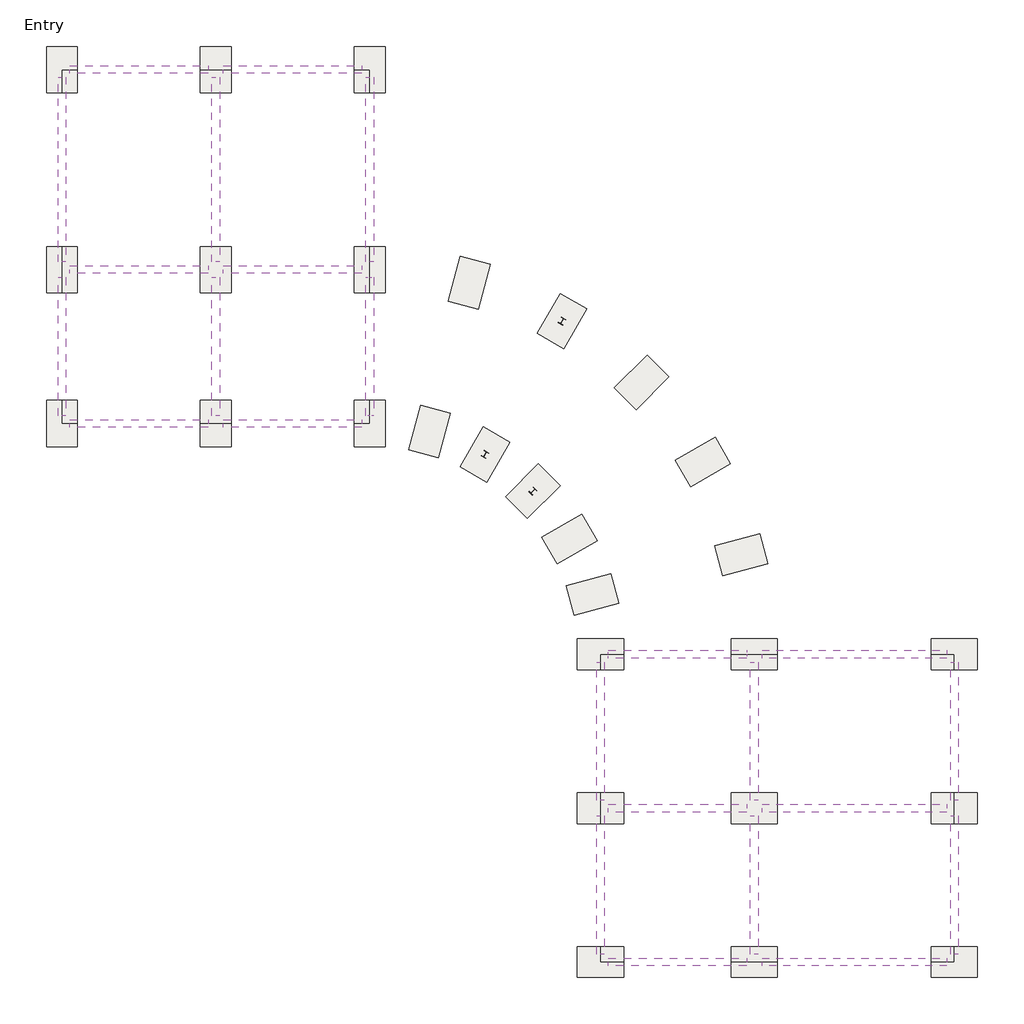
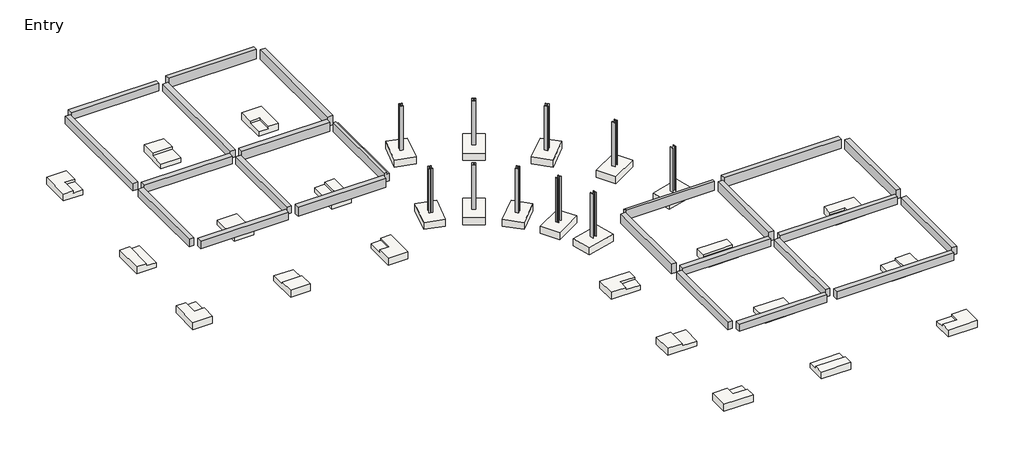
# One storey: 28 slabs, 24 beams, 10 columns.
"""IFC4 building model written with IfcOpenShell, lengths in millimetres."""

import ifcopenshell
import ifcopenshell.guid

model = None  # the IFC model being written
_history = None  # IfcOwnerHistory: only IFC2X3 demands one
_inside = {}  # id of a spatial element -> (the spatial element, [elements in it])
_under = {}  # id of a project, library or spatial element -> (it, [spatial elements below it])
_declared = {}  # id of a project -> (the project, [libraries it declares])
_typed = {}  # id of a type object -> (the type object, [elements of that type])
_made_of = {}  # id of a material, layer set ... -> (it, [elements and type objects made of it])


def new_model(schema):
    """Start an empty IFC model of exactly this schema.

    Asked for "IFC4X3", IfcOpenShell would pick the latest addendum, in which some entities
    have other attributes; the version numbers below select the first issue.
    IFC2X3 requires an IfcOwnerHistory on every rooted entity: one is made here for all.
    """
    global model, _history
    if schema == "IFC4X3":
        model = ifcopenshell.file(schema_version=(4, 3, 0, 0))
    else:
        model = ifcopenshell.file(schema=schema)
    _inside.clear()
    _under.clear()
    _declared.clear()
    _typed.clear()
    _made_of.clear()
    _history = None
    if model.schema == "IFC2X3":
        org = make("IfcOrganization", Name="unknown")
        user = make(
            "IfcPersonAndOrganization",
            ThePerson=make("IfcPerson", FamilyName="unknown"),
            TheOrganization=org,
        )
        app = make(
            "IfcApplication",
            ApplicationDeveloper=org,
            Version="unknown",
            ApplicationFullName="unknown",
            ApplicationIdentifier="unknown",
        )
        _history = make(
            "IfcOwnerHistory",
            OwningUser=user,
            OwningApplication=app,
            ChangeAction="ADDED",
            CreationDate=0,
        )
    return model


def make(cls, **values):
    """One entity of the class cls with the attributes given. An attribute that is None is left unset."""
    return model.create_entity(
        cls, **{name: value for name, value in values.items() if value is not None}
    )


def rooted(cls, **values):
    """An entity with a GlobalId (a new one), such as an element, a storey or a relation."""
    return make(cls, GlobalId=ifcopenshell.guid.new(), OwnerHistory=_history, **values)


def si_unit(unit_type, name, prefix=None):
    """IfcSIUnit, for example si_unit("LENGTHUNIT", "METRE", prefix="MILLI")."""
    return make("IfcSIUnit", UnitType=unit_type, Prefix=prefix, Name=name)


def assignment(units):
    """IfcUnitAssignment: the units of a project."""
    return None if units is None else make("IfcUnitAssignment", Units=units)


def point(xyz):
    """IfcCartesianPoint."""
    return None if xyz is None else make("IfcCartesianPoint", Coordinates=xyz)


def direction(xyz):
    """IfcDirection."""
    return None if xyz is None else make("IfcDirection", DirectionRatios=xyz)


def frame(location, z_axis=None, x_axis=None):
    """IfcAxis2Placement3D, a coordinate frame: its origin and axes. An axis left out is left unset."""
    return make(
        "IfcAxis2Placement3D",
        Location=point(location),
        Axis=direction(z_axis),
        RefDirection=direction(x_axis),
    )


def frame_2d(location, x_axis=None):
    """IfcAxis2Placement2D, a coordinate frame in the plane: its origin and x axis."""
    return make(
        "IfcAxis2Placement2D", Location=point(location), RefDirection=direction(x_axis)
    )


def origin():
    """The frame at (0, 0, 0) with its axes left unset."""
    return frame((0.0, 0.0, 0.0))


def origin_with_axes():
    """The frame at (0, 0, 0) with the z axis (0, 0, 1) and the x axis (1, 0, 0) written out."""
    return frame((0.0, 0.0, 0.0), z_axis=(0.0, 0.0, 1.0), x_axis=(1.0, 0.0, 0.0))


def place(relative_to, where):
    """IfcLocalPlacement: puts the frame where relative to a parent placement (None: the world)."""
    return make(
        "IfcLocalPlacement", PlacementRelTo=relative_to, RelativePlacement=where
    )


def context(
    kind, dimensions, precision=None, world=None, true_north=None, identifier=None
):
    """IfcGeometricRepresentationContext, for example the 3D "Model" context."""
    return make(
        "IfcGeometricRepresentationContext",
        ContextIdentifier=identifier,
        ContextType=kind,
        CoordinateSpaceDimension=dimensions,
        Precision=precision,
        WorldCoordinateSystem=world,
        TrueNorth=true_north,
    )


def project(units=None, contexts=None):
    """IfcProject with its units and contexts."""
    return rooted(
        "IfcProject",
        Name="project",
        RepresentationContexts=contexts,
        UnitsInContext=assignment(units),
    )


def spatial(cls, under=None, at=None, **own):
    """A site, building, storey or space (cls), placed at a placement, below another one or the project."""
    s = rooted(cls, ObjectPlacement=at, **own)
    if under is not None:
        _under.setdefault(under.id(), (under, []))[1].append(s)
    return s


def polyline(points):
    """IfcPolyline through the points."""
    return make("IfcPolyline", Points=[point(p) for p in points])


def circle_curve(where, radius):
    """IfcCircle in the frame where."""
    return make("IfcCircle", Position=where, Radius=radius)


def trimmed(basis, trim1, trim2, sense, master):
    """IfcTrimmedCurve: the piece of a basis curve between two trims."""
    return make(
        "IfcTrimmedCurve",
        BasisCurve=basis,
        Trim1=trim1,
        Trim2=trim2,
        SenseAgreement=sense,
        MasterRepresentation=master,
    )


def segment(curve, same_sense, transition):
    """IfcCompositeCurveSegment."""
    return make(
        "IfcCompositeCurveSegment",
        Transition=transition,
        SameSense=same_sense,
        ParentCurve=curve,
    )


def composite_curve(segments, self_intersect=None):
    """IfcCompositeCurve: segments joined end to end."""
    return make("IfcCompositeCurve", Segments=segments, SelfIntersect=self_intersect)


def outline(outer, holes=None, kind="AREA"):
    """IfcArbitraryClosedProfileDef: a profile drawn as a closed curve; with holes, ...WithVoids."""
    if holes is None:
        return make("IfcArbitraryClosedProfileDef", ProfileType=kind, OuterCurve=outer)
    return make(
        "IfcArbitraryProfileDefWithVoids",
        ProfileType=kind,
        OuterCurve=outer,
        InnerCurves=holes,
    )


def extrude(swept, where, along, depth):
    """IfcExtrudedAreaSolid: the profile swept, set in the frame where, extruded along a direction by depth."""
    return make(
        "IfcExtrudedAreaSolid",
        SweptArea=swept,
        Position=where,
        ExtrudedDirection=direction(along),
        Depth=depth,
    )


def faces_of(points, faces, orient=None, outer=None):
    """IfcFace entities. A face is a list of loops; a loop is a list of indices into points, from 0.

    orient and outer hold one flag for each loop. By default every Orientation is true, the
    first loop of a face is its IfcFaceOuterBound and the others are IfcFaceBound.
    """
    made = []
    for i, loops in enumerate(faces):
        bounds = []
        for j, loop in enumerate(loops):
            is_outer = j == 0 if outer is None else outer[i][j]
            bounds.append(
                make(
                    "IfcFaceOuterBound" if is_outer else "IfcFaceBound",
                    Bound=make("IfcPolyLoop", Polygon=[points[k] for k in loop]),
                    Orientation=True if orient is None else orient[i][j],
                )
            )
        made.append(make("IfcFace", Bounds=bounds))
    return made


def faceted_brep(points, faces, orient=None, outer=None, voids=None):
    """IfcFacetedBrep: a solid bounded by flat faces; with voids (closed shells), ...WithVoids."""
    shared = [point(p) for p in points]
    hull = make("IfcClosedShell", CfsFaces=faces_of(shared, faces, orient, outer))
    if voids is None:
        return make("IfcFacetedBrep", Outer=hull)
    return make(
        "IfcFacetedBrepWithVoids",
        Outer=hull,
        Voids=[
            make(cls, CfsFaces=faces_of(shared, fs, o, b)) for cls, fs, o, b in voids
        ],
    )


def shape(context_of_items, identifier, shape_type, items):
    """IfcShapeRepresentation: the items that make up one representation, for example the "Body"."""
    return make(
        "IfcShapeRepresentation",
        ContextOfItems=context_of_items,
        RepresentationIdentifier=identifier,
        RepresentationType=shape_type,
        Items=items,
    )


def source(mapping_origin, context_of_items, identifier, shape_type, items):
    """IfcRepresentationMap: a shape defined once, which mapped items show again and again."""
    return make(
        "IfcRepresentationMap",
        MappingOrigin=mapping_origin,
        MappedRepresentation=shape(context_of_items, identifier, shape_type, items),
    )


def transform(
    local_origin,
    x_axis=None,
    y_axis=None,
    z_axis=None,
    scale=None,
    scale2=None,
    scale3=None,
    uniform=True,
):
    """IfcCartesianTransformationOperator3D, or its non-uniform kind. x_axis, y_axis, z_axis: its Axis1, 2, 3."""
    if uniform:
        return make(
            "IfcCartesianTransformationOperator3D",
            Axis1=direction(x_axis),
            Axis2=direction(y_axis),
            LocalOrigin=point(local_origin),
            Scale=scale,
            Axis3=direction(z_axis),
        )
    return make(
        "IfcCartesianTransformationOperator3DnonUniform",
        Axis1=direction(x_axis),
        Axis2=direction(y_axis),
        LocalOrigin=point(local_origin),
        Scale=scale,
        Axis3=direction(z_axis),
        Scale2=scale2,
        Scale3=scale3,
    )


def mapped(mapping_source, mapping_target):
    """IfcMappedItem: shows the shape of a source again, moved by a transform."""
    return make(
        "IfcMappedItem", MappingSource=mapping_source, MappingTarget=mapping_target
    )


def made_of(thing, what):
    """Note that an element or type object is made of a material, layer set ...; save() writes the relation."""
    if what is not None:
        _made_of.setdefault(what.id(), (what, []))[1].append(thing)
    return thing


def element(
    cls,
    number,
    at=None,
    inside=None,
    cuts=None,
    type_object=None,
    material=None,
    context=None,
    identifier="Body",
    shape_type=None,
    held_by="IfcProductDefinitionShape",
    body=None,
    shapes=None,
    **own,
):
    """One element of the class cls, such as IfcWall. Its Tag is "e" and its number.

    at: its placement. inside: the storey or other place that contains it. cuts: it is an
    opening in that element (IfcRelVoidsElement). A single representation is given by context,
    identifier, shape_type and body (its items); several are given by shapes. held_by: the class
    of the entity that holds the representations. save() writes the other relations.
    """
    e = rooted(cls, Tag="e%d" % number, ObjectPlacement=at, **own)
    if body is not None:
        shapes = [shape(context, identifier, shape_type, body)]
    if shapes is not None:
        e.Representation = make(held_by, Representations=shapes)
    if inside is not None:
        _inside.setdefault(inside.id(), (inside, []))[1].append(e)
    if cuts is not None:
        rooted(
            "IfcRelVoidsElement", RelatingBuildingElement=cuts, RelatedOpeningElement=e
        )
    if type_object is not None:
        _typed.setdefault(type_object.id(), (type_object, []))[1].append(e)
    return made_of(e, material)


def aggregate(whole, parts):
    """IfcRelAggregates: a whole, such as a stair, and the parts it consists of."""
    return rooted("IfcRelAggregates", RelatingObject=whole, RelatedObjects=parts)


def save(model, path):
    """Write the relations noted so far, then the file.

    IfcRelAggregates (storeys below a building ...), IfcRelContainedInSpatialStructure (elements
    in a storey), IfcRelDefinesByType, IfcRelAssociatesMaterial and IfcRelDeclares: one each for
    every whole, place, type object, material and project.
    """
    for whole, parts in _under.values():
        aggregate(whole, parts)
    for where, things in _inside.values():
        rooted(
            "IfcRelContainedInSpatialStructure",
            RelatedElements=things,
            RelatingStructure=where,
        )
    for kind, things in _typed.values():
        rooted("IfcRelDefinesByType", RelatedObjects=things, RelatingType=kind)
    for what, things in _made_of.values():
        rooted("IfcRelAssociatesMaterial", RelatedObjects=things, RelatingMaterial=what)
    for by, libraries in _declared.values():
        rooted("IfcRelDeclares", RelatingContext=by, RelatedDefinitions=libraries)
    model.write(path)


def w_wide_flange_column_w10x33_dc02cfa5(model_context):
    return source(origin(), model_context, "Body", "SweptSolid", [
        extrude(outline(composite_curve([segment(polyline([(101.1039062, 123.5769531), (101.1039062, 112.5636719), (21.2328125, 112.5636719)]), True, "CONTINUOUS"), segment(trimmed(circle_curve(frame_2d((21.2328125, 95.0019531)), 17.5617188), [point((21.2328125, 112.5636719))], [point((3.6710937, 95.0019531))], True, "CARTESIAN"), True, "CONTINUOUS"), segment(polyline([(3.6710937, 95.0019531), (3.6710937, -95.0019531)]), True, "CONTINUOUS"), segment(trimmed(circle_curve(frame_2d((21.2328125, -95.0019531)), 17.5617188), [point((3.6710937, -95.0019531))], [point((21.2328125, -112.5636719))], True, "CARTESIAN"), True, "CONTINUOUS"), segment(polyline([(21.2328125, -112.5636719), (101.1039062, -112.5636719), (101.1039062, -123.5769531), (-101.1039063, -123.5769531), (-101.1039063, -112.5636719), (-21.2328125, -112.5636719)]), True, "CONTINUOUS"), segment(trimmed(circle_curve(frame_2d((-21.2328125, -95.0019531)), 17.5617188), [point((-21.2328125, -112.5636719))], [point((-3.6710938, -95.0019531))], True, "CARTESIAN"), True, "CONTINUOUS"), segment(polyline([(-3.6710938, -95.0019531), (-3.6710938, 95.0019531)]), True, "CONTINUOUS"), segment(trimmed(circle_curve(frame_2d((-21.2328125, 95.0019531)), 17.5617188), [point((-3.6710938, 95.0019531))], [point((-21.2328125, 112.5636719))], True, "CARTESIAN"), True, "CONTINUOUS"), segment(polyline([(-21.2328125, 112.5636719), (-101.1039063, 112.5636719), (-101.1039063, 123.5769531), (101.1039062, 123.5769531)]), True, "CONTINUOUS")], self_intersect=False)), origin_with_axes(), (0.0, 0.0, 1.0), 2921.0),
    ])


def slab_5ba74754(model_context):
    return source(origin(), model_context, "Body", "SweptSolid", [
        extrude(outline(polyline([(609.6, 914.4), (609.6, -914.4), (-609.6, -914.4), (-609.6, 914.4), (609.6, 914.4)])), frame((0.0, 0.0, -457.2), z_axis=(0.0, 0.0, 1.0), x_axis=(1.0, 0.0, 0.0)), (0.0, 0.0, 1.0), 457.2),
    ])


model = new_model("IFC4")

# Units and contexts
model_context = context("Model", 3, world=origin())
ifc_project = project(units=[si_unit("LENGTHUNIT", "METRE", prefix="MILLI")], contexts=[model_context])

# Site, building, storey
site = spatial("IfcSite", under=ifc_project)
building = spatial("IfcBuilding", under=site)
storey = spatial("IfcBuildingStorey", under=building, Name="Entry", Elevation=0.0)

# Beams
placement = place(None, origin())
element("IfcBeam", 1, ObjectType="Concrete-Rectangular Beam : 12 x 24", at=placement, inside=storey, context=model_context, shape_type="SweptSolid", body=[
    extrude(outline(polyline([(-35055.8783408, 12274.6963551), (-40542.2783408, 12274.6963551), (-40542.2783408, 12579.4963551), (-35055.8783408, 12579.4963551), (-35055.8783408, 12274.6963551)])), frame((0.0, 0.0, 2438.4), z_axis=(0.0, 0.0, 1.0), x_axis=(1.0, 0.0, 0.0)), (0.0, 0.0, 1.0), 488.95),
])
element("IfcBeam", 2, ObjectType="Concrete-Rectangular Beam : 12 x 24", at=placement, inside=storey, context=model_context, shape_type="SweptSolid", body=[
    extrude(outline(polyline([(-34446.2783408, 12274.6963551), (-34446.2783408, 12579.4963551), (-28959.8783408, 12579.4963551), (-28959.8783408, 12274.6963551), (-34446.2783408, 12274.6963551)])), frame((0.0, 0.0, 2438.4), z_axis=(0.0, 0.0, 1.0), x_axis=(1.0, 0.0, 0.0)), (0.0, 0.0, 1.0), 609.6),
])
element("IfcBeam", 3, ObjectType="Concrete-Rectangular Beam : 12 x 24", at=placement, inside=storey, context=model_context, shape_type="SweptSolid", body=[
    extrude(outline(polyline([(-28502.6783408, 4807.0963551), (-28807.4783408, 4807.0963551), (-28807.4783408, 12122.2963551), (-28502.6783408, 12122.2963551), (-28502.6783408, 4807.0963551)])), frame((0.0, 0.0, 2438.4), z_axis=(0.0, 0.0, 1.0), x_axis=(1.0, 0.0, 0.0)), (0.0, 0.0, 1.0), 609.6),
])
element("IfcBeam", 4, ObjectType="Concrete-Rectangular Beam : 12 x 24", at=placement, inside=storey, context=model_context, shape_type="SweptSolid", body=[
    extrude(outline(polyline([(3048.0, -28807.4783408), (2438.4, -28807.4783408), (2438.4, -28502.6783408), (2921.0, -28502.6783408), (2921.0, -28655.0783408), (3048.0, -28655.0783408), (3048.0, -28807.4783408)])), frame((0.0, -1288.9036449, 0.0), z_axis=(0.0, 1.0, 0.0), x_axis=(0.0, 0.0, 1.0)), (0.0, 0.0, 1.0), 5486.4),
])
element("IfcBeam", 5, ObjectType="Concrete-Rectangular Beam : 12 x 24", at=placement, inside=storey, context=model_context, shape_type="SweptSolid", body=[
    extrude(outline(polyline([(-34446.2783408, -1746.1036449), (-34446.2783408, -1441.3036449), (-28959.8783408, -1441.3036449), (-28959.8783408, -1746.1036449), (-34446.2783408, -1746.1036449)])), frame((0.0, 0.0, 2438.4), z_axis=(0.0, 0.0, 1.0), x_axis=(1.0, 0.0, 0.0)), (0.0, 0.0, 1.0), 609.6),
])
element("IfcBeam", 6, ObjectType="Concrete-Rectangular Beam : 12 x 24", at=placement, inside=storey, context=model_context, shape_type="SweptSolid", body=[
    extrude(outline(polyline([(-40542.2783408, -1441.3036449), (-35055.8783408, -1441.3036449), (-35055.8783408, -1746.1036449), (-40542.2783408, -1746.1036449), (-40542.2783408, -1441.3036449)])), frame((0.0, 0.0, 2438.4), z_axis=(0.0, 0.0, 1.0), x_axis=(1.0, 0.0, 0.0)), (0.0, 0.0, 1.0), 488.95),
])
element("IfcBeam", 7, ObjectType="Concrete-Rectangular Beam : 12 x 24", at=placement, inside=storey, context=model_context, shape_type="SweptSolid", body=[
    extrude(outline(polyline([(-40694.6783408, 4197.4963551), (-40694.6783408, -1288.9036449), (-40999.4783408, -1288.9036449), (-40999.4783408, 4197.4963551), (-40694.6783408, 4197.4963551)])), frame((0.0, 0.0, 2438.4), z_axis=(0.0, 0.0, 1.0), x_axis=(1.0, 0.0, 0.0)), (0.0, 0.0, 1.0), 488.95),
])
element("IfcBeam", 8, ObjectType="Concrete-Rectangular Beam : 12 x 24", at=placement, inside=storey, context=model_context, shape_type="SweptSolid", body=[
    extrude(outline(polyline([(-40694.6783408, 12122.2963551), (-40694.6783408, 4807.0963551), (-40999.4783408, 4807.0963551), (-40999.4783408, 12122.2963551), (-40694.6783408, 12122.2963551)])), frame((0.0, 0.0, 2438.4), z_axis=(0.0, 0.0, 1.0), x_axis=(1.0, 0.0, 0.0)), (0.0, 0.0, 1.0), 488.95),
])
element("IfcBeam", 9, ObjectType="Concrete-Rectangular Beam : 12 x 24", at=placement, inside=storey, context=model_context, shape_type="SweptSolid", body=[
    extrude(outline(polyline([(-34903.4783408, 12122.2963551), (-34598.6783408, 12122.2963551), (-34598.6783408, 4807.0963551), (-34903.4783408, 4807.0963551), (-34903.4783408, 12122.2963551)])), frame((0.0, 0.0, 2438.4), z_axis=(0.0, 0.0, 1.0), x_axis=(1.0, 0.0, 0.0)), (0.0, 0.0, 1.0), 488.95),
])
element("IfcBeam", 10, ObjectType="Concrete-Rectangular Beam : 12 x 24", at=placement, inside=storey, context=model_context, shape_type="SweptSolid", body=[
    extrude(outline(polyline([(-34903.4783408, -1288.9036449), (-34903.4783408, 4197.4963551), (-34598.6783408, 4197.4963551), (-34598.6783408, -1288.9036449), (-34903.4783408, -1288.9036449)])), frame((0.0, 0.0, 2438.4), z_axis=(0.0, 0.0, 1.0), x_axis=(1.0, 0.0, 0.0)), (0.0, 0.0, 1.0), 488.95),
])
element("IfcBeam", 11, ObjectType="Concrete-Rectangular Beam : 12 x 24", at=placement, inside=storey, context=model_context, shape_type="SweptSolid", body=[
    extrude(outline(polyline([(-35055.8783408, 4349.8963551), (-40542.2783408, 4349.8963551), (-40542.2783408, 4654.6963551), (-35055.8783408, 4654.6963551), (-35055.8783408, 4349.8963551)])), frame((0.0, 0.0, 2438.4), z_axis=(0.0, 0.0, 1.0), x_axis=(1.0, 0.0, 0.0)), (0.0, 0.0, 1.0), 488.95),
])
element("IfcBeam", 12, ObjectType="Concrete-Rectangular Beam : 12 x 24", at=placement, inside=storey, context=model_context, shape_type="SweptSolid", body=[
    extrude(outline(polyline([(-34446.2783408, 4349.8963551), (-34446.2783408, 4654.6963551), (-28959.8783408, 4654.6963551), (-28959.8783408, 4349.8963551), (-34446.2783408, 4349.8963551)])), frame((0.0, 0.0, 2438.4), z_axis=(0.0, 0.0, 1.0), x_axis=(1.0, 0.0, 0.0)), (0.0, 0.0, 1.0), 609.6),
])
element("IfcBeam", 13, ObjectType="Concrete-Rectangular Beam : 12 x 24", at=placement, inside=storey, context=model_context, shape_type="SweptSolid", body=[
    extrude(outline(polyline([(-5642.6783408, -17138.5036449), (-5337.8783408, -17138.5036449), (-5337.8783408, -22624.9036449), (-5642.6783408, -22624.9036449), (-5642.6783408, -17138.5036449)])), frame((0.0, 0.0, 2438.4), z_axis=(0.0, 0.0, 1.0), x_axis=(1.0, 0.0, 0.0)), (0.0, 0.0, 1.0), 488.95),
])
element("IfcBeam", 14, ObjectType="Concrete-Rectangular Beam : 12 x 24", at=placement, inside=storey, context=model_context, shape_type="SweptSolid", body=[
    extrude(outline(polyline([(-5337.8783408, -16528.9036449), (-5642.6783408, -16528.9036449), (-5642.6783408, -11042.5036449), (-5337.8783408, -11042.5036449), (-5337.8783408, -16528.9036449)])), frame((0.0, 0.0, 2438.4), z_axis=(0.0, 0.0, 1.0), x_axis=(1.0, 0.0, 0.0)), (0.0, 0.0, 1.0), 609.6),
])
element("IfcBeam", 15, ObjectType="Concrete-Rectangular Beam : 12 x 24", at=placement, inside=storey, context=model_context, shape_type="SweptSolid", body=[
    extrude(outline(polyline([(-13110.2783408, -10890.1036449), (-13110.2783408, -10585.3036449), (-5795.0783408, -10585.3036449), (-5795.0783408, -10890.1036449), (-13110.2783408, -10890.1036449)])), frame((0.0, 0.0, 2438.4), z_axis=(0.0, 0.0, 1.0), x_axis=(1.0, 0.0, 0.0)), (0.0, 0.0, 1.0), 609.6),
])
element("IfcBeam", 16, ObjectType="Concrete-Rectangular Beam : 12 x 24", at=placement, inside=storey, context=model_context, shape_type="SweptSolid", body=[
    extrude(outline(polyline([(-10890.1036449, 3048.0), (-10737.7036449, 3048.0), (-10737.7036449, 2921.0), (-10585.3036449, 2921.0), (-10585.3036449, 2438.4), (-10890.1036449, 2438.4), (-10890.1036449, 3048.0)])), frame((-19206.2783408, 0.0, 0.0), z_axis=(1.0, 0.0, 0.0), x_axis=(0.0, 1.0, 0.0)), (0.0, 0.0, 1.0), 5486.4),
])
element("IfcBeam", 17, ObjectType="Concrete-Rectangular Beam : 12 x 24", at=placement, inside=storey, context=model_context, shape_type="SweptSolid", body=[
    extrude(outline(polyline([(-19358.6783408, -16528.9036449), (-19663.4783408, -16528.9036449), (-19663.4783408, -11042.5036449), (-19358.6783408, -11042.5036449), (-19358.6783408, -16528.9036449)])), frame((0.0, 0.0, 2438.4), z_axis=(0.0, 0.0, 1.0), x_axis=(1.0, 0.0, 0.0)), (0.0, 0.0, 1.0), 609.6),
])
element("IfcBeam", 18, ObjectType="Concrete-Rectangular Beam : 12 x 24", at=placement, inside=storey, context=model_context, shape_type="SweptSolid", body=[
    extrude(outline(polyline([(-19663.4783408, -17138.5036449), (-19358.6783408, -17138.5036449), (-19358.6783408, -22624.9036449), (-19663.4783408, -22624.9036449), (-19663.4783408, -17138.5036449)])), frame((0.0, 0.0, 2438.4), z_axis=(0.0, 0.0, 1.0), x_axis=(1.0, 0.0, 0.0)), (0.0, 0.0, 1.0), 488.95),
])
element("IfcBeam", 19, ObjectType="Concrete-Rectangular Beam : 12 x 24", at=placement, inside=storey, context=model_context, shape_type="SweptSolid", body=[
    extrude(outline(polyline([(-19206.2783408, -23082.1036449), (-19206.2783408, -22777.3036449), (-13719.8783408, -22777.3036449), (-13719.8783408, -23082.1036449), (-19206.2783408, -23082.1036449)])), frame((0.0, 0.0, 2438.4), z_axis=(0.0, 0.0, 1.0), x_axis=(1.0, 0.0, 0.0)), (0.0, 0.0, 1.0), 488.95),
])
element("IfcBeam", 20, ObjectType="Concrete-Rectangular Beam : 12 x 24", at=placement, inside=storey, context=model_context, shape_type="SweptSolid", body=[
    extrude(outline(polyline([(-13110.2783408, -23082.1036449), (-13110.2783408, -22777.3036449), (-5795.0783408, -22777.3036449), (-5795.0783408, -23082.1036449), (-13110.2783408, -23082.1036449)])), frame((0.0, 0.0, 2438.4), z_axis=(0.0, 0.0, 1.0), x_axis=(1.0, 0.0, 0.0)), (0.0, 0.0, 1.0), 488.95),
])
element("IfcBeam", 21, ObjectType="Concrete-Rectangular Beam : 12 x 24", at=placement, inside=storey, context=model_context, shape_type="SweptSolid", body=[
    extrude(outline(polyline([(-13110.2783408, -16986.1036449), (-13110.2783408, -16681.3036449), (-5795.0783408, -16681.3036449), (-5795.0783408, -16986.1036449), (-13110.2783408, -16986.1036449)])), frame((0.0, 0.0, 2438.4), z_axis=(0.0, 0.0, 1.0), x_axis=(1.0, 0.0, 0.0)), (0.0, 0.0, 1.0), 488.95),
])
element("IfcBeam", 22, ObjectType="Concrete-Rectangular Beam : 12 x 24", at=placement, inside=storey, context=model_context, shape_type="SweptSolid", body=[
    extrude(outline(polyline([(-19206.2783408, -16986.1036449), (-19206.2783408, -16681.3036449), (-13719.8783408, -16681.3036449), (-13719.8783408, -16986.1036449), (-19206.2783408, -16986.1036449)])), frame((0.0, 0.0, 2438.4), z_axis=(0.0, 0.0, 1.0), x_axis=(1.0, 0.0, 0.0)), (0.0, 0.0, 1.0), 488.95),
])
element("IfcBeam", 23, ObjectType="Concrete-Rectangular Beam : 12 x 24", at=placement, inside=storey, context=model_context, shape_type="SweptSolid", body=[
    extrude(outline(polyline([(-13567.4783408, -17138.5036449), (-13262.6783408, -17138.5036449), (-13262.6783408, -22624.9036449), (-13567.4783408, -22624.9036449), (-13567.4783408, -17138.5036449)])), frame((0.0, 0.0, 2438.4), z_axis=(0.0, 0.0, 1.0), x_axis=(1.0, 0.0, 0.0)), (0.0, 0.0, 1.0), 488.95),
])
element("IfcBeam", 24, ObjectType="Concrete-Rectangular Beam : 12 x 24", at=placement, inside=storey, context=model_context, shape_type="SweptSolid", body=[
    extrude(outline(polyline([(-13262.6783408, -16528.9036449), (-13567.4783408, -16528.9036449), (-13567.4783408, -11042.5036449), (-13262.6783408, -11042.5036449), (-13262.6783408, -16528.9036449)])), frame((0.0, 0.0, 2438.4), z_axis=(0.0, 0.0, 1.0), x_axis=(1.0, 0.0, 0.0)), (0.0, 0.0, 1.0), 609.6),
])

# Columns
w_wide_flange_column_w10x33_shape = w_wide_flange_column_w10x33_dc02cfa5(model_context)
element("IfcColumn", 25, ObjectType="W-Wide Flange-Column : W10X33", at=placement, inside=storey, context=model_context, shape_type="MappedRepresentation", body=[
    mapped(w_wide_flange_column_w10x33_shape, transform((-20736.1420486, -6165.7036449, 0.0), x_axis=(-0.4999999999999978, 0.8660254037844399, 0.0), y_axis=(-0.8660254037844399, -0.4999999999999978, 0.0), z_axis=(0.0, 0.0, 1.0))),
])
element("IfcColumn", 26, ObjectType="W-Wide Flange-Column : W10X33", at=placement, inside=storey, context=model_context, shape_type="MappedRepresentation", body=[
    mapped(w_wide_flange_column_w10x33_shape, transform((-24083.0783408, -2818.7673527, 0.0), x_axis=(0.8660254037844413, -0.49999999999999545, 0.0), y_axis=(0.49999999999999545, 0.8660254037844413, 0.0), z_axis=(0.0, 0.0, 1.0))),
])
element("IfcColumn", 27, ObjectType="W-Wide Flange-Column : W10X33", at=placement, inside=storey, context=model_context, shape_type="MappedRepresentation", body=[
    mapped(w_wide_flange_column_w10x33_shape, transform((-26288.4369924, -1905.2778893, 0.0), x_axis=(0.9659258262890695, -0.258819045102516, 0.0), y_axis=(0.258819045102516, 0.9659258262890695, 0.0), z_axis=(0.0, 0.0, 1.0))),
])
element("IfcColumn", 28, ObjectType="W-Wide Flange-Column : W10X33", at=placement, inside=storey, context=model_context, shape_type="MappedRepresentation", body=[
    mapped(w_wide_flange_column_w10x33_shape, transform((-15456.8511871, -3117.7036449, 0.0), x_axis=(-0.4999999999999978, 0.8660254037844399, 0.0), y_axis=(-0.8660254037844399, -0.4999999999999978, 0.0), z_axis=(0.0, 0.0, 1.0))),
])
element("IfcColumn", 29, ObjectType="W-Wide Flange-Column : W10X33", at=placement, inside=storey, context=model_context, shape_type="MappedRepresentation", body=[
    mapped(w_wide_flange_column_w10x33_shape, transform((-21035.0783408, 2460.5235088, 0.0), x_axis=(0.8660254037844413, -0.49999999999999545, 0.0), y_axis=(0.49999999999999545, 0.8660254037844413, 0.0), z_axis=(0.0, 0.0, 1.0))),
])
element("IfcColumn", 30, ObjectType="W-Wide Flange-Column : W10X33", at=placement, inside=storey, context=model_context, shape_type="MappedRepresentation", body=[
    mapped(w_wide_flange_column_w10x33_shape, transform((-24710.6760935, 3983.0059477, 0.0), x_axis=(0.9659258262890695, -0.258819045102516, 0.0), y_axis=(0.258819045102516, 0.9659258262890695, 0.0), z_axis=(0.0, 0.0, 1.0))),
])
element("IfcColumn", 31, ObjectType="W-Wide Flange-Column : W10X33", at=placement, inside=storey, context=model_context, shape_type="MappedRepresentation", body=[
    mapped(w_wide_flange_column_w10x33_shape, transform((-22189.2939336, -4271.9192377, 0.0), x_axis=(0.7071067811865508, -0.7071067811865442, 0.0), y_axis=(0.7071067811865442, 0.7071067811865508, 0.0), z_axis=(0.0, 0.0, 1.0))),
])
element("IfcColumn", 32, ObjectType="W-Wide Flange-Column : W10X33", at=placement, inside=storey, context=model_context, shape_type="MappedRepresentation", body=[
    mapped(w_wide_flange_column_w10x33_shape, transform((-17878.7709955, 38.6037004, 0.0), x_axis=(0.7071067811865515, -0.7071067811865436, 0.0), y_axis=(0.7071067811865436, 0.7071067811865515, 0.0), z_axis=(0.0, 0.0, 1.0))),
])
element("IfcColumn", 33, ObjectType="W-Wide Flange-Column : W10X33", at=placement, inside=storey, context=model_context, shape_type="MappedRepresentation", body=[
    mapped(w_wide_flange_column_w10x33_shape, transform((-19822.6525852, -8371.0622965, 0.0), x_axis=(-0.2588190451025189, 0.9659258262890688, 0.0), y_axis=(-0.9659258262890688, -0.2588190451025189, 0.0), z_axis=(0.0, 0.0, 1.0))),
])
element("IfcColumn", 34, ObjectType="W-Wide Flange-Column : W10X33", at=placement, inside=storey, context=model_context, shape_type="MappedRepresentation", body=[
    mapped(w_wide_flange_column_w10x33_shape, transform((-13934.3687482, -6793.3013975, 0.0), x_axis=(-0.2588190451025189, 0.9659258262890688, 0.0), y_axis=(-0.9659258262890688, -0.2588190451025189, 0.0), z_axis=(0.0, 0.0, 1.0))),
])

# Slabs
element("IfcSlab", 35, ObjectType="Footing-Rectangular : 72\" x 48\" x 18\"", at=placement, inside=storey, context=model_context, shape_type="Brep", body=[
    faceted_brep([(-40237.4783408, 13341.4963551, -1676.4), (-41456.6783408, 13341.4963551, -1676.4), (-41456.6783408, 11512.6963551, -1676.4), (-40847.0783408, 11512.6963551, -1676.4), (-40847.0783408, 12427.0963551, -1676.4), (-40237.4783408, 12427.0963551, -1676.4), (-41456.6783408, 11512.6963551, -2133.6), (-41456.6783408, 13341.4963551, -2133.6), (-40237.4783408, 13341.4963551, -2133.6), (-40237.4783408, 11512.6963551, -2133.6), (-40237.4783408, 11512.6963551, -1828.8), (-40847.0783408, 11512.6963551, -1828.8), (-40237.4783408, 12427.0963551, -1828.8), (-40847.0783408, 12427.0963551, -1828.8)], [[[0, 1, 2, 3, 4, 5]], [[6, 7, 8, 9]], [[6, 9, 10, 11, 3, 2]], [[9, 8, 0, 5, 12, 10]], [[1, 0, 8, 7]], [[2, 1, 7, 6]], [[12, 13, 11, 10]], [[13, 4, 3, 11]], [[4, 13, 12, 5]]]),
])
element("IfcSlab", 36, ObjectType="Footing-Rectangular : 72\" x 48\" x 18\"", at=placement, inside=storey, context=model_context, shape_type="SweptSolid", body=[
    extrude(outline(polyline([(13341.4963551, -2133.6), (11512.6963551, -2133.6), (11512.6963551, -1828.8), (12427.0963551, -1828.8), (12427.0963551, -1676.4), (13341.4963551, -1676.4), (13341.4963551, -2133.6)])), frame((-35360.6783408, 0.0, 0.0), z_axis=(1.0, 0.0, 0.0), x_axis=(0.0, 1.0, 0.0)), (0.0, 0.0, 1.0), 1219.2),
])
element("IfcSlab", 37, ObjectType="Footing-Rectangular : 72\" x 48\" x 18\"", at=placement, inside=storey, context=model_context, shape_type="Brep", body=[
    faceted_brep([(-28045.4783408, 11512.6963551, -1676.4), (-28045.4783408, 13341.4963551, -1676.4), (-29264.6783408, 13341.4963551, -1676.4), (-29264.6783408, 12427.0963551, -1676.4), (-28655.0783408, 12427.0963551, -1676.4), (-28655.0783408, 11512.6963551, -1676.4), (-29264.6783408, 11512.6963551, -2133.6), (-29264.6783408, 13341.4963551, -2133.6), (-28045.4783408, 13341.4963551, -2133.6), (-28045.4783408, 11512.6963551, -2133.6), (-28655.0783408, 11512.6963551, -1828.8), (-29264.6783408, 11512.6963551, -1828.8), (-29264.6783408, 12427.0963551, -1828.8), (-28655.0783408, 12427.0963551, -1828.8)], [[[0, 1, 2, 3, 4, 5]], [[6, 7, 8, 9]], [[6, 9, 0, 5, 10, 11]], [[1, 0, 9, 8]], [[2, 1, 8, 7]], [[7, 6, 11, 12, 3, 2]], [[13, 12, 11, 10]], [[4, 13, 10, 5]], [[13, 4, 3, 12]]]),
])
element("IfcSlab", 38, ObjectType="Footing-Rectangular : 72\" x 48\" x 18\"", at=placement, inside=storey, context=model_context, shape_type="SweptSolid", body=[
    extrude(outline(polyline([(-2133.6, -29264.6783408), (-2133.6, -28045.4783408), (-1676.4, -28045.4783408), (-1676.4, -28655.0783408), (-1828.8, -28655.0783408), (-1828.8, -29264.6783408), (-2133.6, -29264.6783408)])), frame((0.0, 3587.8963551, 0.0), z_axis=(0.0, 1.0, 0.0), x_axis=(0.0, 0.0, 1.0)), (0.0, 0.0, 1.0), 1828.8),
])
element("IfcSlab", 39, ObjectType="Footing-Rectangular : 72\" x 48\" x 18\"", at=placement, inside=storey, context=model_context, shape_type="SweptSolid", body=[
    extrude(outline(polyline([(-35360.6783408, 3587.8963551), (-35360.6783408, 5416.6963551), (-34141.4783408, 5416.6963551), (-34141.4783408, 3587.8963551), (-35360.6783408, 3587.8963551)])), frame((0.0, 0.0, -2133.6), z_axis=(0.0, 0.0, 1.0), x_axis=(1.0, 0.0, 0.0)), (0.0, 0.0, 1.0), 304.8),
])
element("IfcSlab", 40, ObjectType="Footing-Rectangular : 72\" x 48\" x 18\"", at=placement, inside=storey, context=model_context, shape_type="SweptSolid", body=[
    extrude(outline(polyline([(-2133.6, -41456.6783408), (-2133.6, -40237.4783408), (-1828.8, -40237.4783408), (-1828.8, -40847.0783408), (-1676.4, -40847.0783408), (-1676.4, -41456.6783408), (-2133.6, -41456.6783408)])), frame((0.0, 3587.8963551, 0.0), z_axis=(0.0, 1.0, 0.0), x_axis=(0.0, 0.0, 1.0)), (0.0, 0.0, 1.0), 1828.8),
])
element("IfcSlab", 41, ObjectType="Footing-Rectangular : 72\" x 48\" x 18\"", at=placement, inside=storey, context=model_context, shape_type="Brep", body=[
    faceted_brep([(-29264.6783408, -2508.1036449, -1676.4), (-28045.4783408, -2508.1036449, -1676.4), (-28045.4783408, -679.3036449, -1676.4), (-28655.0783408, -679.3036449, -1676.4), (-28655.0783408, -1593.7036449, -1676.4), (-29264.6783408, -1593.7036449, -1676.4), (-29264.6783408, -2508.1036449, -2133.6), (-29264.6783408, -679.3036449, -2133.6), (-28045.4783408, -679.3036449, -2133.6), (-28045.4783408, -2508.1036449, -2133.6), (-29264.6783408, -679.3036449, -1828.8), (-28655.0783408, -679.3036449, -1828.8), (-29264.6783408, -1593.7036449, -1828.8), (-28655.0783408, -1593.7036449, -1828.8)], [[[0, 1, 2, 3, 4, 5]], [[6, 7, 8, 9]], [[1, 0, 6, 9]], [[2, 1, 9, 8]], [[8, 7, 10, 11, 3, 2]], [[7, 6, 0, 5, 12, 10]], [[12, 13, 11, 10]], [[13, 4, 3, 11]], [[4, 13, 12, 5]]]),
])
element("IfcSlab", 42, ObjectType="Footing-Rectangular : 72\" x 48\" x 18\"", at=placement, inside=storey, context=model_context, shape_type="SweptSolid", body=[
    extrude(outline(polyline([(-679.3036449, -2133.6), (-2508.1036449, -2133.6), (-2508.1036449, -1676.4), (-1593.7036449, -1676.4), (-1593.7036449, -1828.8), (-679.3036449, -1828.8), (-679.3036449, -2133.6)])), frame((-35360.6783408, 0.0, 0.0), z_axis=(1.0, 0.0, 0.0), x_axis=(0.0, 1.0, 0.0)), (0.0, 0.0, 1.0), 1219.2),
])
element("IfcSlab", 43, ObjectType="Footing-Rectangular : 72\" x 48\" x 18\"", at=placement, inside=storey, context=model_context, shape_type="Brep", body=[
    faceted_brep([(-41456.6783408, -2508.1036449, -1676.4), (-40237.4783408, -2508.1036449, -1676.4), (-40237.4783408, -1593.7036449, -1676.4), (-40847.0783408, -1593.7036449, -1676.4), (-40847.0783408, -679.3036449, -1676.4), (-41456.6783408, -679.3036449, -1676.4), (-41456.6783408, -2508.1036449, -2133.6), (-41456.6783408, -679.3036449, -2133.6), (-40237.4783408, -679.3036449, -2133.6), (-40237.4783408, -2508.1036449, -2133.6), (-40237.4783408, -679.3036449, -1828.8), (-40237.4783408, -1593.7036449, -1828.8), (-40847.0783408, -679.3036449, -1828.8), (-40847.0783408, -1593.7036449, -1828.8)], [[[0, 1, 2, 3, 4, 5]], [[6, 7, 8, 9]], [[1, 0, 6, 9]], [[9, 8, 10, 11, 2, 1]], [[8, 7, 5, 4, 12, 10]], [[0, 5, 7, 6]], [[12, 13, 11, 10]], [[13, 3, 2, 11]], [[3, 13, 12, 4]]]),
])
element("IfcSlab", 44, ObjectType="Footing-Rectangular : 72\" x 48\" x 18\"", at=placement, inside=storey, context=model_context, shape_type="Brep", body=[
    faceted_brep([(-4575.8783408, -23539.3036449, -1676.4), (-4575.8783408, -22320.1036449, -1676.4), (-5490.2783408, -22320.1036449, -1676.4), (-5490.2783408, -22929.7036449, -1676.4), (-6404.6783408, -22929.7036449, -1676.4), (-6404.6783408, -23539.3036449, -1676.4), (-4575.8783408, -23539.3036449, -2133.6), (-6404.6783408, -23539.3036449, -2133.6), (-6404.6783408, -22320.1036449, -2133.6), (-4575.8783408, -22320.1036449, -2133.6), (-6404.6783408, -22929.7036449, -1828.8), (-6404.6783408, -22320.1036449, -1828.8), (-5490.2783408, -22320.1036449, -1828.8), (-5490.2783408, -22929.7036449, -1828.8)], [[[0, 1, 2, 3, 4, 5]], [[6, 7, 8, 9]], [[8, 7, 5, 4, 10, 11]], [[9, 8, 11, 12, 2, 1]], [[1, 0, 6, 9]], [[0, 5, 7, 6]], [[10, 13, 12, 11]], [[3, 13, 10, 4]], [[13, 3, 2, 12]]]),
])
element("IfcSlab", 45, ObjectType="Footing-Rectangular : 72\" x 48\" x 18\"", at=placement, inside=storey, context=model_context, shape_type="SweptSolid", body=[
    extrude(outline(polyline([(-2133.6, -6404.6783408), (-2133.6, -4575.8783408), (-1676.4, -4575.8783408), (-1676.4, -5490.2783408), (-1828.8, -5490.2783408), (-1828.8, -6404.6783408), (-2133.6, -6404.6783408)])), frame((0.0, -17443.3036449, 0.0), z_axis=(0.0, 1.0, 0.0), x_axis=(0.0, 0.0, 1.0)), (0.0, 0.0, 1.0), 1219.2),
])
element("IfcSlab", 46, ObjectType="Footing-Rectangular : 72\" x 48\" x 18\"", at=placement, inside=storey, context=model_context, shape_type="Brep", body=[
    faceted_brep([(-4575.8783408, -10128.1036449, -1676.4), (-6404.6783408, -10128.1036449, -1676.4), (-6404.6783408, -10737.7036449, -1676.4), (-5490.2783408, -10737.7036449, -1676.4), (-5490.2783408, -11347.3036449, -1676.4), (-4575.8783408, -11347.3036449, -1676.4), (-4575.8783408, -11347.3036449, -2133.6), (-6404.6783408, -11347.3036449, -2133.6), (-6404.6783408, -10128.1036449, -2133.6), (-4575.8783408, -10128.1036449, -2133.6), (-6404.6783408, -11347.3036449, -1828.8), (-6404.6783408, -10737.7036449, -1828.8), (-5490.2783408, -11347.3036449, -1828.8), (-5490.2783408, -10737.7036449, -1828.8)], [[[0, 1, 2, 3, 4, 5]], [[6, 7, 8, 9]], [[8, 7, 10, 11, 2, 1]], [[1, 0, 9, 8]], [[0, 5, 6, 9]], [[7, 6, 5, 4, 12, 10]], [[13, 11, 10, 12]], [[13, 3, 2, 11]], [[3, 13, 12, 4]]]),
])
element("IfcSlab", 47, ObjectType="Footing-Rectangular : 72\" x 48\" x 18\"", at=placement, inside=storey, context=model_context, shape_type="SweptSolid", body=[
    extrude(outline(polyline([(-10128.1036449, -2133.6), (-11347.3036449, -2133.6), (-11347.3036449, -1828.8), (-10737.7036449, -1828.8), (-10737.7036449, -1676.4), (-10128.1036449, -1676.4), (-10128.1036449, -2133.6)])), frame((-14329.4783408, 0.0, 0.0), z_axis=(1.0, 0.0, 0.0), x_axis=(0.0, 1.0, 0.0)), (0.0, 0.0, 1.0), 1828.8),
])
element("IfcSlab", 48, ObjectType="Footing-Rectangular : 72\" x 48\" x 18\"", at=placement, inside=storey, context=model_context, shape_type="SweptSolid", body=[
    extrude(outline(polyline([(-12500.6783408, -17443.3036449), (-14329.4783408, -17443.3036449), (-14329.4783408, -16224.1036449), (-12500.6783408, -16224.1036449), (-12500.6783408, -17443.3036449)])), frame((0.0, 0.0, -2133.6), z_axis=(0.0, 0.0, 1.0), x_axis=(1.0, 0.0, 0.0)), (0.0, 0.0, 1.0), 304.8),
])
element("IfcSlab", 49, ObjectType="Footing-Rectangular : 72\" x 48\" x 18\"", at=placement, inside=storey, context=model_context, shape_type="SweptSolid", body=[
    extrude(outline(polyline([(-22320.1036449, -2133.6), (-23539.3036449, -2133.6), (-23539.3036449, -1676.4), (-22929.7036449, -1676.4), (-22929.7036449, -1828.8), (-22320.1036449, -1828.8), (-22320.1036449, -2133.6)])), frame((-14329.4783408, 0.0, 0.0), z_axis=(1.0, 0.0, 0.0), x_axis=(0.0, 1.0, 0.0)), (0.0, 0.0, 1.0), 1828.8),
])
element("IfcSlab", 50, ObjectType="Footing-Rectangular : 72\" x 48\" x 18\"", at=placement, inside=storey, context=model_context, shape_type="Brep", body=[
    faceted_brep([(-20425.4783408, -10128.1036449, -1676.4), (-20425.4783408, -11347.3036449, -1676.4), (-19511.0783408, -11347.3036449, -1676.4), (-19511.0783408, -10737.7036449, -1676.4), (-18596.6783408, -10737.7036449, -1676.4), (-18596.6783408, -10128.1036449, -1676.4), (-18596.6783408, -11347.3036449, -2133.6), (-20425.4783408, -11347.3036449, -2133.6), (-20425.4783408, -10128.1036449, -2133.6), (-18596.6783408, -10128.1036449, -2133.6), (-18596.6783408, -10737.7036449, -1828.8), (-18596.6783408, -11347.3036449, -1828.8), (-19511.0783408, -11347.3036449, -1828.8), (-19511.0783408, -10737.7036449, -1828.8)], [[[0, 1, 2, 3, 4, 5]], [[6, 7, 8, 9]], [[1, 0, 8, 7]], [[0, 5, 9, 8]], [[6, 9, 5, 4, 10, 11]], [[7, 6, 11, 12, 2, 1]], [[10, 13, 12, 11]], [[3, 13, 10, 4]], [[13, 3, 2, 12]]]),
])
element("IfcSlab", 51, ObjectType="Footing-Rectangular : 72\" x 48\" x 18\"", at=placement, inside=storey, context=model_context, shape_type="SweptSolid", body=[
    extrude(outline(polyline([(-2133.6, -20425.4783408), (-2133.6, -18596.6783408), (-1828.8, -18596.6783408), (-1828.8, -19511.0783408), (-1676.4, -19511.0783408), (-1676.4, -20425.4783408), (-2133.6, -20425.4783408)])), frame((0.0, -17443.3036449, 0.0), z_axis=(0.0, 1.0, 0.0), x_axis=(0.0, 0.0, 1.0)), (0.0, 0.0, 1.0), 1219.2),
])
element("IfcSlab", 52, ObjectType="Footing-Rectangular : 72\" x 48\" x 18\"", at=placement, inside=storey, context=model_context, shape_type="Brep", body=[
    faceted_brep([(-20425.4783408, -22320.1036449, -1676.4), (-20425.4783408, -23539.3036449, -1676.4), (-18596.6783408, -23539.3036449, -1676.4), (-18596.6783408, -22929.7036449, -1676.4), (-19511.0783408, -22929.7036449, -1676.4), (-19511.0783408, -22320.1036449, -1676.4), (-18596.6783408, -23539.3036449, -2133.6), (-20425.4783408, -23539.3036449, -2133.6), (-20425.4783408, -22320.1036449, -2133.6), (-18596.6783408, -22320.1036449, -2133.6), (-19511.0783408, -22320.1036449, -1828.8), (-18596.6783408, -22320.1036449, -1828.8), (-18596.6783408, -22929.7036449, -1828.8), (-19511.0783408, -22929.7036449, -1828.8)], [[[0, 1, 2, 3, 4, 5]], [[6, 7, 8, 9]], [[1, 0, 8, 7]], [[9, 8, 0, 5, 10, 11]], [[6, 9, 11, 12, 3, 2]], [[2, 1, 7, 6]], [[10, 13, 12, 11]], [[4, 13, 10, 5]], [[13, 4, 3, 12]]]),
])
slab_shape = slab_5ba74754(model_context)
element("IfcSlab", 53, ObjectType="Footing-Rectangular : 72\" x 48\" x 18\"", at=placement, inside=storey, context=model_context, shape_type="MappedRepresentation", body=[
    mapped(slab_shape, transform((-21035.0783408, 2460.5235088, 0.0), x_axis=(0.8660254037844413, -0.49999999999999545, 0.0), y_axis=(0.49999999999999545, 0.8660254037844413, 0.0), z_axis=(0.0, 0.0, 1.0))),
])
element("IfcSlab", 54, ObjectType="Footing-Rectangular : 72\" x 48\" x 18\"", at=placement, inside=storey, context=model_context, shape_type="MappedRepresentation", body=[
    mapped(slab_shape, transform((-24710.6760935, 3983.0059477, 0.0), x_axis=(0.9659258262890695, -0.258819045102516, 0.0), y_axis=(0.258819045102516, 0.9659258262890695, 0.0), z_axis=(0.0, 0.0, 1.0))),
])
element("IfcSlab", 55, ObjectType="Footing-Rectangular : 72\" x 48\" x 18\"", at=placement, inside=storey, context=model_context, shape_type="MappedRepresentation", body=[
    mapped(slab_shape, transform((-17878.7709955, 38.6037004, 0.0), x_axis=(0.7071067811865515, -0.7071067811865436, 0.0), y_axis=(0.7071067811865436, 0.7071067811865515, 0.0), z_axis=(0.0, 0.0, 1.0))),
])
element("IfcSlab", 56, ObjectType="Footing-Rectangular : 72\" x 48\" x 18\"", at=placement, inside=storey, context=model_context, shape_type="MappedRepresentation", body=[
    mapped(slab_shape, transform((-15456.8511871, -3117.7036449, 0.0), x_axis=(-0.4999999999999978, 0.8660254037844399, 0.0), y_axis=(-0.8660254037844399, -0.4999999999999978, 0.0), z_axis=(0.0, 0.0, 1.0))),
])
element("IfcSlab", 57, ObjectType="Footing-Rectangular : 72\" x 48\" x 18\"", at=placement, inside=storey, context=model_context, shape_type="MappedRepresentation", body=[
    mapped(slab_shape, transform((-13934.3687482, -6793.3013975, 0.0), x_axis=(-0.2588190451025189, 0.9659258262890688, 0.0), y_axis=(-0.9659258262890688, -0.2588190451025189, 0.0), z_axis=(0.0, 0.0, 1.0))),
])
element("IfcSlab", 58, ObjectType="Footing-Rectangular : 72\" x 48\" x 18\"", at=placement, inside=storey, context=model_context, shape_type="MappedRepresentation", body=[
    mapped(slab_shape, transform((-26288.4369924, -1905.2778893, 0.0), x_axis=(0.9659258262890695, -0.258819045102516, 0.0), y_axis=(0.258819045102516, 0.9659258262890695, 0.0), z_axis=(0.0, 0.0, 1.0))),
])
element("IfcSlab", 59, ObjectType="Footing-Rectangular : 72\" x 48\" x 18\"", at=placement, inside=storey, context=model_context, shape_type="MappedRepresentation", body=[
    mapped(slab_shape, transform((-24083.0783408, -2818.7673527, 0.0), x_axis=(0.8660254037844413, -0.49999999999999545, 0.0), y_axis=(0.49999999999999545, 0.8660254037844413, 0.0), z_axis=(0.0, 0.0, 1.0))),
])
element("IfcSlab", 60, ObjectType="Footing-Rectangular : 72\" x 48\" x 18\"", at=placement, inside=storey, context=model_context, shape_type="MappedRepresentation", body=[
    mapped(slab_shape, transform((-22189.2939336, -4271.9192377, 0.0), x_axis=(0.7071067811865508, -0.7071067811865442, 0.0), y_axis=(0.7071067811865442, 0.7071067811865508, 0.0), z_axis=(0.0, 0.0, 1.0))),
])
element("IfcSlab", 61, ObjectType="Footing-Rectangular : 72\" x 48\" x 18\"", at=placement, inside=storey, context=model_context, shape_type="MappedRepresentation", body=[
    mapped(slab_shape, transform((-20736.1420486, -6165.7036449, 0.0), x_axis=(-0.4999999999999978, 0.8660254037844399, 0.0), y_axis=(-0.8660254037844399, -0.4999999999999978, 0.0), z_axis=(0.0, 0.0, 1.0))),
])
element("IfcSlab", 62, ObjectType="Footing-Rectangular : 72\" x 48\" x 18\"", at=placement, inside=storey, context=model_context, shape_type="MappedRepresentation", body=[
    mapped(slab_shape, transform((-19822.6525852, -8371.0622965, 0.0), x_axis=(-0.2588190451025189, 0.9659258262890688, 0.0), y_axis=(-0.9659258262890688, -0.2588190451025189, 0.0), z_axis=(0.0, 0.0, 1.0))),
])

save(model, "model.ifc")
